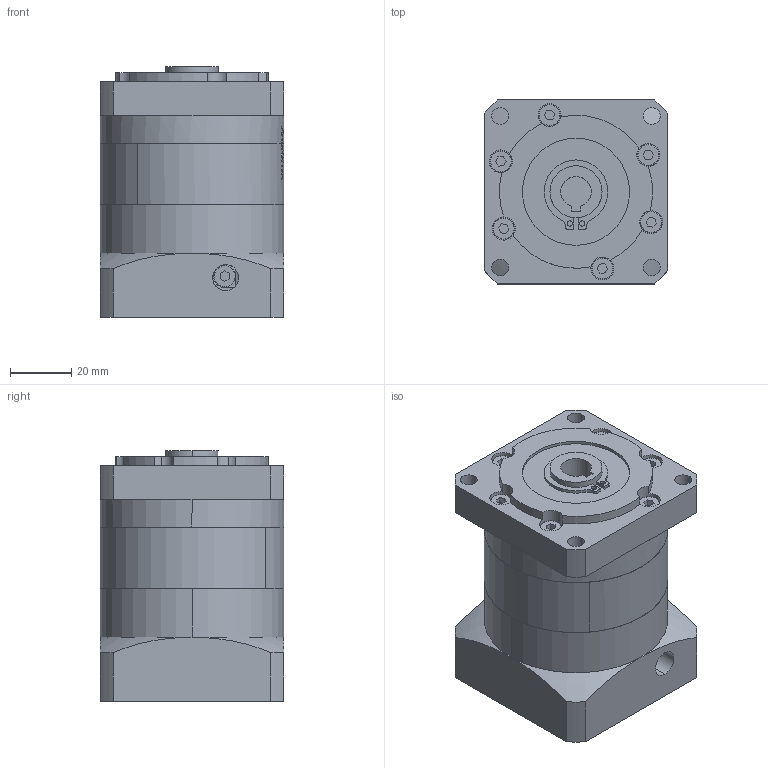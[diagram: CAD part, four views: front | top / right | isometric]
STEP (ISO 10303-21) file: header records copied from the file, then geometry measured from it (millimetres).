
FILE_DESCRIPTION (( 'STEP AP203' ), '1' );
FILE_NAME ('PBF060-L1-14-50-70.STEP', '2022-07-21T08:44:34', ( 'Windows User' ), ( 'P R C' ), 'SwSTEP 2.0', 'SolidWorks 2016', '' );
FILE_SCHEMA (( 'CONFIG_CONTROL_DESIGN' ));
Length unit declared in the file: millimetre
Products named in the file (7): 囀鞠褒蹟佪-M4℅12; PBF060 κｳﾝﾈｦ_ﾒｻｼｶﾄﾚｳﾝﾈｦ; PBF060上蓋版-孔10输出 标准; PBF060 狟屳唳梓袧; PBF060-窣諉啣梓袧_1; GB／T276-94深沟球轴承61905-2RZ; PBF060-L1-14-50-70
Assembly tree (6 placements, depth 2):
  PBF060-L1-14-50-70
    囀鞠褒蹟佪-M4℅12
    PBF060 κｳﾝﾈｦ_ﾒｻｼｶﾄﾚｳﾝﾈｦ
    PBF060上蓋版-孔10输出 标准
    PBF060 狟屳唳梓袧
    PBF060-窣諉啣梓袧_1
    GB／T276-94深沟球轴承61905-2RZ
Bounding box: 60 x 60 x 82 mm (x, y, z)
Volume: 209554.5 mm3; surface area: 65551.8 mm2
Topology: 6 solids, 6 shells, 1068 faces, 2993 edges, 1977 vertices
Faces by surface type: plane 567, cylinder 184, bspline 142, sphere 91, torus 70, cone 14
Entity records: 43517 total; most frequent: CARTESIAN_POINT 16395, ORIENTED_EDGE 5892, DIRECTION 4942, EDGE_CURVE 2946, VERTEX_POINT 1951, AXIS2_PLACEMENT_3D 1741, LINE 1460, VECTOR 1460
